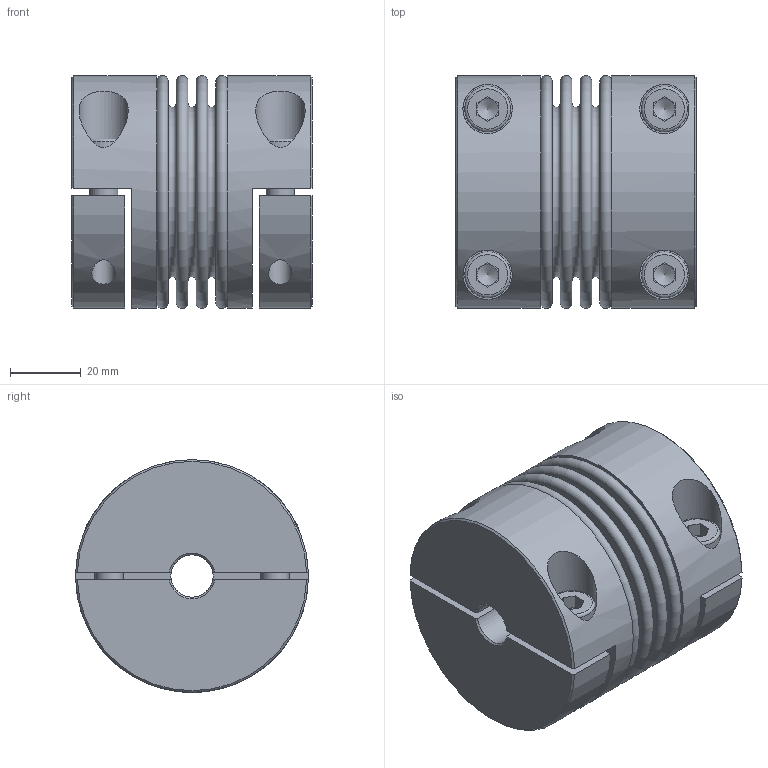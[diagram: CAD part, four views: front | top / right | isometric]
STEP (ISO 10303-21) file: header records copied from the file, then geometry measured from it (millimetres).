
FILE_DESCRIPTION( ( 'Unknown' ), '1' );
FILE_NAME( 'C:/Users/skarpstein/Desktop/KB4HC/KB4HC-60-67.stp', 'Unknown', ( 'Unknown' ), ( 'Unknown' ), 'PSStep 16.0.42', 'Unknown', ' ' );
FILE_SCHEMA( ( 'AUTOMOTIVE_DESIGN { 1 0 10303 214 1 1 1 1 }' ) );
Length unit declared in the file: millimetre
Products named in the file (5): Assem1; KN4HC-60; BK60_Standard_0; Socket Head Cap Screw_DIN_DIN 912 M8 x 25 --- 25N_2
Assembly tree (9 placements, depth 2):
  Assem1
    KN4HC-60  x2
    KN4HC-60  x2
    BK60_Standard_0
    Socket Head Cap Screw_DIN_DIN 912 M8 x 25 --- 25N_2  x4
Bounding box: 68.1 x 66 x 66 mm (x, y, z)
Volume: 151075 mm3; surface area: 74165.5 mm2
Topology: 9 solids, 9 shells, 172 faces, 363 edges, 231 vertices
Faces by surface type: plane 100, cylinder 32, torus 24, cone 16
Full cylindrical faces by diameter (mm): 6.647 x4, 8 x4, 8.5 x4, 12 x2, 13 x4, 14 x4, 56.3 x2, 57.3 x2, 66 x2
Entity records: 3118 total; most frequent: CARTESIAN_POINT 667, DIRECTION 374, ORIENTED_EDGE 250, AXIS2_PLACEMENT_3D 167, EDGE_LOOP 148, EDGE_CURVE 125, FACE_OUTER_BOUND 116, VERTEX_POINT 110
